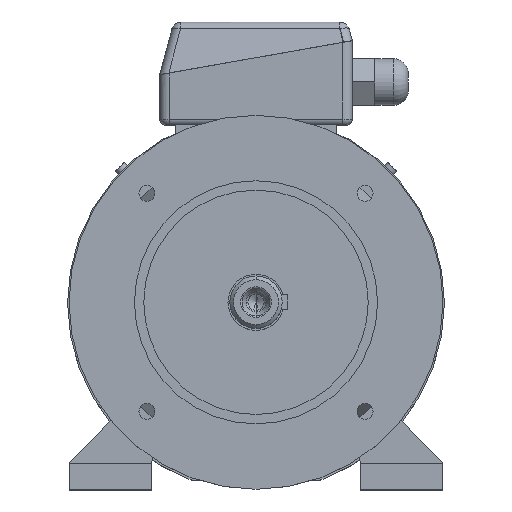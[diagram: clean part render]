
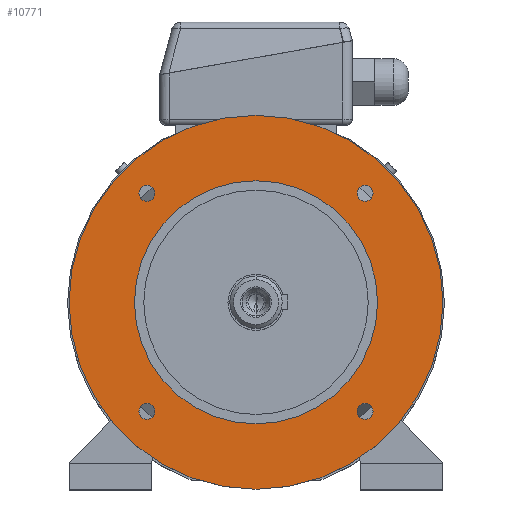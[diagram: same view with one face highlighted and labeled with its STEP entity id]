
A CAD part, top view. The second image highlights one B-rep face of the part: STEP entity #10771.
In plain terms, the highlighted planar face has unit normal (0, 0, 1).
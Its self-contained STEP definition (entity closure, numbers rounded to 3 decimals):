
#554 = VERTEX_POINT ( 'NONE', #3449 ) ;
#615 = EDGE_CURVE ( 'NONE', #12326, #554, #3570, .T. ) ;
#647 = VERTEX_POINT ( 'NONE', #3625 ) ;
#1486 = ORIENTED_EDGE ( 'NONE', *, *, #4595, .T. ) ;
#1619 = EDGE_LOOP ( 'NONE', ( #1486, #8736 ) ) ;
#1676 = ORIENTED_EDGE ( 'NONE', *, *, #10913, .F. ) ;
#1707 = VERTEX_POINT ( 'NONE', #5883 ) ;
#1810 = EDGE_CURVE ( 'NONE', #10662, #11923, #6100, .T. ) ;
#2012 = EDGE_LOOP ( 'NONE', ( #10852, #9802 ) ) ;
#2746 = EDGE_CURVE ( 'NONE', #4551, #647, #8025, .T. ) ;
#3449 = CARTESIAN_POINT ( 'NONE',  ( 62.586, -58.336, 45. ) ) ;
#3570 = CIRCLE ( 'NONE', #3571, 4.25 ) ;
#3571 = AXIS2_PLACEMENT_3D ( 'NONE', #3572, #3573, #3574 ) ;
#3572 = CARTESIAN_POINT ( 'NONE',  ( 58.336, -58.336, 45. ) ) ;
#3573 = DIRECTION ( 'NONE',  ( 0., 0., 1. ) ) ;
#3574 = DIRECTION ( 'NONE',  ( 1., 0., 0. ) ) ;
#3625 = CARTESIAN_POINT ( 'NONE',  ( -54.086, -58.336, 45. ) ) ;
#3932 = ORIENTED_EDGE ( 'NONE', *, *, #1810, .F. ) ;
#4336 = VERTEX_POINT ( 'NONE', #9051 ) ;
#4529 = EDGE_LOOP ( 'NONE', ( #3932, #1676 ) ) ;
#4551 = VERTEX_POINT ( 'NONE', #9141 ) ;
#4595 = EDGE_CURVE ( 'NONE', #4336, #5603, #9174, .T. ) ;
#4805 = ORIENTED_EDGE ( 'NONE', *, *, #615, .F. ) ;
#5395 = EDGE_CURVE ( 'NONE', #554, #12326, #9601, .T. ) ;
#5603 = VERTEX_POINT ( 'NONE', #9774 ) ;
#5808 = ORIENTED_EDGE ( 'NONE', *, *, #5395, .F. ) ;
#5883 = CARTESIAN_POINT ( 'NONE',  ( -54.086, 58.336, 45. ) ) ;
#6100 = CIRCLE ( 'NONE', #6101, 4.25 ) ;
#6101 = AXIS2_PLACEMENT_3D ( 'NONE', #6102, #6103, #6104 ) ;
#6102 = CARTESIAN_POINT ( 'NONE',  ( 58.336, 58.336, 45. ) ) ;
#6103 = DIRECTION ( 'NONE',  ( 0., 0., 1. ) ) ;
#6104 = DIRECTION ( 'NONE',  ( 1., 0., 0. ) ) ;
#6354 = EDGE_LOOP ( 'NONE', ( #5808, #4805 ) ) ;
#7085 = ORIENTED_EDGE ( 'NONE', *, *, #2746, .F. ) ;
#7294 = VERTEX_POINT ( 'NONE', #10673 ) ;
#7544 = VERTEX_POINT ( 'NONE', #10820 ) ;
#7661 = EDGE_CURVE ( 'NONE', #647, #4551, #10854, .T. ) ;
#7794 = EDGE_CURVE ( 'NONE', #7544, #7294, #10919, .T. ) ;
#8025 = CIRCLE ( 'NONE', #8026, 4.25 ) ;
#8026 = AXIS2_PLACEMENT_3D ( 'NONE', #8027, #8028, #8029 ) ;
#8027 = CARTESIAN_POINT ( 'NONE',  ( -58.336, -58.336, 45. ) ) ;
#8028 = DIRECTION ( 'NONE',  ( 0., 0., 1. ) ) ;
#8029 = DIRECTION ( 'NONE',  ( 1., 0., 0. ) ) ;
#8084 = ORIENTED_EDGE ( 'NONE', *, *, #7661, .F. ) ;
#8662 = EDGE_LOOP ( 'NONE', ( #8084, #7085 ) ) ;
#8736 = ORIENTED_EDGE ( 'NONE', *, *, #11203, .T. ) ;
#8922 = ORIENTED_EDGE ( 'NONE', *, *, #9212, .F. ) ;
#9051 = CARTESIAN_POINT ( 'NONE',  ( 0., 65., 45. ) ) ;
#9141 = CARTESIAN_POINT ( 'NONE',  ( -62.586, -58.336, 45. ) ) ;
#9174 = CIRCLE ( 'NONE', #9175, 65. ) ;
#9175 = AXIS2_PLACEMENT_3D ( 'NONE', #9176, #9177, #9178 ) ;
#9176 = CARTESIAN_POINT ( 'NONE',  ( 0., 0., 45. ) ) ;
#9177 = DIRECTION ( 'NONE',  ( 0., 0., -1. ) ) ;
#9178 = DIRECTION ( 'NONE',  ( 0., 1., 0. ) ) ;
#9212 = EDGE_CURVE ( 'NONE', #10934, #1707, #11589, .T. ) ;
#9516 = EDGE_CURVE ( 'NONE', #1707, #10934, #11807, .T. ) ;
#9601 = CIRCLE ( 'NONE', #9602, 4.25 ) ;
#9602 = AXIS2_PLACEMENT_3D ( 'NONE', #9603, #9604, #9605 ) ;
#9603 = CARTESIAN_POINT ( 'NONE',  ( 58.336, -58.336, 45. ) ) ;
#9604 = DIRECTION ( 'NONE',  ( 0., 0., 1. ) ) ;
#9605 = DIRECTION ( 'NONE',  ( 1., 0., 0. ) ) ;
#9774 = CARTESIAN_POINT ( 'NONE',  ( 0., -65., 45. ) ) ;
#9802 = ORIENTED_EDGE ( 'NONE', *, *, #10152, .F. ) ;
#9936 = ORIENTED_EDGE ( 'NONE', *, *, #9516, .F. ) ;
#10152 = EDGE_CURVE ( 'NONE', #7294, #7544, #12113, .T. ) ;
#10498 = EDGE_LOOP ( 'NONE', ( #9936, #8922 ) ) ;
#10662 = VERTEX_POINT ( 'NONE', #12368 ) ;
#10673 = CARTESIAN_POINT ( 'NONE',  ( 0., -100., 45. ) ) ;
#10771 = ADVANCED_FACE ( 'NONE', ( #12406, #12407, #12408, #12409, #12410, #12411 ), #12412, .T. ) ;
#10820 = CARTESIAN_POINT ( 'NONE',  ( 0., 100., 45. ) ) ;
#10852 = ORIENTED_EDGE ( 'NONE', *, *, #7794, .F. ) ;
#10854 = CIRCLE ( 'NONE', #10855, 4.25 ) ;
#10855 = AXIS2_PLACEMENT_3D ( 'NONE', #10856, #10857, #10858 ) ;
#10856 = CARTESIAN_POINT ( 'NONE',  ( -58.336, -58.336, 45. ) ) ;
#10857 = DIRECTION ( 'NONE',  ( 0., 0., 1. ) ) ;
#10858 = DIRECTION ( 'NONE',  ( 1., 0., 0. ) ) ;
#10913 = EDGE_CURVE ( 'NONE', #11923, #10662, #12455, .T. ) ;
#10919 = CIRCLE ( 'NONE', #10920, 100. ) ;
#10920 = AXIS2_PLACEMENT_3D ( 'NONE', #10921, #10922, #10923 ) ;
#10921 = CARTESIAN_POINT ( 'NONE',  ( 0., 0., 45. ) ) ;
#10922 = DIRECTION ( 'NONE',  ( 0., 0., -1. ) ) ;
#10923 = DIRECTION ( 'NONE',  ( 0., 1., 0. ) ) ;
#10934 = VERTEX_POINT ( 'NONE', #12471 ) ;
#11203 = EDGE_CURVE ( 'NONE', #5603, #4336, #12580, .T. ) ;
#11589 = CIRCLE ( 'NONE', #11590, 4.25 ) ;
#11590 = AXIS2_PLACEMENT_3D ( 'NONE', #11591, #11592, #11593 ) ;
#11591 = CARTESIAN_POINT ( 'NONE',  ( -58.336, 58.336, 45. ) ) ;
#11592 = DIRECTION ( 'NONE',  ( 0., 0., 1. ) ) ;
#11593 = DIRECTION ( 'NONE',  ( 1., 0., 0. ) ) ;
#11807 = CIRCLE ( 'NONE', #11808, 4.25 ) ;
#11808 = AXIS2_PLACEMENT_3D ( 'NONE', #11809, #11810, #11811 ) ;
#11809 = CARTESIAN_POINT ( 'NONE',  ( -58.336, 58.336, 45. ) ) ;
#11810 = DIRECTION ( 'NONE',  ( 0., 0., 1. ) ) ;
#11811 = DIRECTION ( 'NONE',  ( 1., 0., 0. ) ) ;
#11923 = VERTEX_POINT ( 'NONE', #12942 ) ;
#12113 = CIRCLE ( 'NONE', #12114, 100. ) ;
#12114 = AXIS2_PLACEMENT_3D ( 'NONE', #12115, #12116, #12117 ) ;
#12115 = CARTESIAN_POINT ( 'NONE',  ( 0., 0., 45. ) ) ;
#12116 = DIRECTION ( 'NONE',  ( 0., 0., -1. ) ) ;
#12117 = DIRECTION ( 'NONE',  ( 0., 1., 0. ) ) ;
#12326 = VERTEX_POINT ( 'NONE', #13107 ) ;
#12368 = CARTESIAN_POINT ( 'NONE',  ( 62.586, 58.336, 45. ) ) ;
#12406 = FACE_BOUND ( 'NONE', #10498, .T. ) ;
#12407 = FACE_BOUND ( 'NONE', #8662, .T. ) ;
#12408 = FACE_BOUND ( 'NONE', #6354, .T. ) ;
#12409 = FACE_BOUND ( 'NONE', #4529, .T. ) ;
#12410 = FACE_BOUND ( 'NONE', #1619, .T. ) ;
#12411 = FACE_OUTER_BOUND ( 'NONE', #2012, .T. ) ;
#12412 = PLANE ( 'NONE',  #12413 ) ;
#12413 = AXIS2_PLACEMENT_3D ( 'NONE', #12414, #12415, #12416 ) ;
#12414 = CARTESIAN_POINT ( 'NONE',  ( 0., 100., 45. ) ) ;
#12415 = DIRECTION ( 'NONE',  ( 0., 0., 1. ) ) ;
#12416 = DIRECTION ( 'NONE',  ( 0., -1., 0. ) ) ;
#12455 = CIRCLE ( 'NONE', #12456, 4.25 ) ;
#12456 = AXIS2_PLACEMENT_3D ( 'NONE', #12463, #12464, #12465 ) ;
#12463 = CARTESIAN_POINT ( 'NONE',  ( 58.336, 58.336, 45. ) ) ;
#12464 = DIRECTION ( 'NONE',  ( 0., 0., 1. ) ) ;
#12465 = DIRECTION ( 'NONE',  ( 1., 0., 0. ) ) ;
#12471 = CARTESIAN_POINT ( 'NONE',  ( -62.586, 58.336, 45. ) ) ;
#12580 = CIRCLE ( 'NONE', #12582, 65. ) ;
#12582 = AXIS2_PLACEMENT_3D ( 'NONE', #12583, #12584, #12585 ) ;
#12583 = CARTESIAN_POINT ( 'NONE',  ( 0., 0., 45. ) ) ;
#12584 = DIRECTION ( 'NONE',  ( 0., 0., -1. ) ) ;
#12585 = DIRECTION ( 'NONE',  ( 0., 1., 0. ) ) ;
#12942 = CARTESIAN_POINT ( 'NONE',  ( 54.086, 58.336, 45. ) ) ;
#13107 = CARTESIAN_POINT ( 'NONE',  ( 54.086, -58.336, 45. ) ) ;
